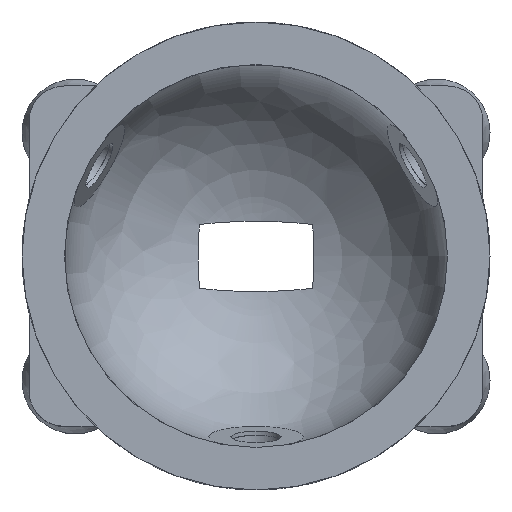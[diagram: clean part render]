
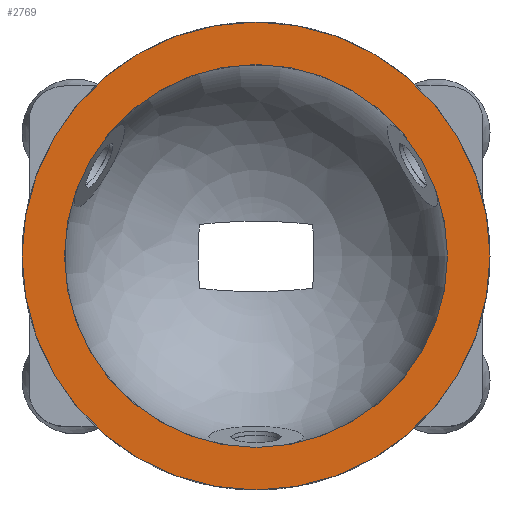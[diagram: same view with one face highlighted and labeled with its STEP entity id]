
A CAD part, top view. The second image highlights one B-rep face of the part: STEP entity #2769.
In plain terms, the highlighted planar face has unit normal (0, 0, 1).
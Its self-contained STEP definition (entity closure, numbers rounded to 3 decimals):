
#45 = CYLINDRICAL_SURFACE('',#46,13.5);
#46 = AXIS2_PLACEMENT_3D('',#47,#48,#49);
#47 = CARTESIAN_POINT('',(0.,0.,-4.));
#48 = DIRECTION('',(0.,0.,1.));
#49 = DIRECTION('',(1.,0.,-0.));
#540 = VERTEX_POINT('',#541);
#541 = CARTESIAN_POINT('',(13.5,0.,0.));
#562 = EDGE_CURVE('',#540,#540,#563,.T.);
#563 = SURFACE_CURVE('',#564,(#569,#576),.PCURVE_S1.);
#564 = CIRCLE('',#565,13.5);
#565 = AXIS2_PLACEMENT_3D('',#566,#567,#568);
#566 = CARTESIAN_POINT('',(0.,0.,0.));
#567 = DIRECTION('',(0.,0.,1.));
#568 = DIRECTION('',(1.,0.,-0.));
#569 = PCURVE('',#45,#570);
#570 = DEFINITIONAL_REPRESENTATION('',(#571),#575);
#571 = LINE('',#572,#573);
#572 = CARTESIAN_POINT('',(0.,4.));
#573 = VECTOR('',#574,1.);
#574 = DIRECTION('',(1.,0.));
#575 = ( GEOMETRIC_REPRESENTATION_CONTEXT(2) 
PARAMETRIC_REPRESENTATION_CONTEXT() REPRESENTATION_CONTEXT('2D SPACE',''
  ) );
#576 = PCURVE('',#577,#582);
#577 = PLANE('',#578);
#578 = AXIS2_PLACEMENT_3D('',#579,#580,#581);
#579 = CARTESIAN_POINT('',(0.,0.,0.));
#580 = DIRECTION('',(0.,0.,1.));
#581 = DIRECTION('',(1.,0.,-0.));
#582 = DEFINITIONAL_REPRESENTATION('',(#583),#587);
#583 = CIRCLE('',#584,13.5);
#584 = AXIS2_PLACEMENT_2D('',#585,#586);
#585 = CARTESIAN_POINT('',(0.,0.));
#586 = DIRECTION('',(1.,-0.));
#587 = ( GEOMETRIC_REPRESENTATION_CONTEXT(2) 
PARAMETRIC_REPRESENTATION_CONTEXT() REPRESENTATION_CONTEXT('2D SPACE',''
  ) );
#2769 = ADVANCED_FACE('',(#2770,#2773),#577,.T.);
#2770 = FACE_BOUND('',#2771,.F.);
#2771 = EDGE_LOOP('',(#2772));
#2772 = ORIENTED_EDGE('',*,*,#562,.T.);
#2773 = FACE_BOUND('',#2774,.F.);
#2774 = EDGE_LOOP('',(#2775));
#2775 = ORIENTED_EDGE('',*,*,#2776,.F.);
#2776 = EDGE_CURVE('',#2777,#2777,#2779,.T.);
#2777 = VERTEX_POINT('',#2778);
#2778 = CARTESIAN_POINT('',(16.5,0.,0.));
#2779 = SURFACE_CURVE('',#2780,(#2785,#2792),.PCURVE_S1.);
#2780 = CIRCLE('',#2781,16.5);
#2781 = AXIS2_PLACEMENT_3D('',#2782,#2783,#2784);
#2782 = CARTESIAN_POINT('',(0.,0.,0.));
#2783 = DIRECTION('',(0.,0.,1.));
#2784 = DIRECTION('',(1.,0.,-0.));
#2785 = PCURVE('',#577,#2786);
#2786 = DEFINITIONAL_REPRESENTATION('',(#2787),#2791);
#2787 = CIRCLE('',#2788,16.5);
#2788 = AXIS2_PLACEMENT_2D('',#2789,#2790);
#2789 = CARTESIAN_POINT('',(0.,0.));
#2790 = DIRECTION('',(1.,-0.));
#2791 = ( GEOMETRIC_REPRESENTATION_CONTEXT(2) 
PARAMETRIC_REPRESENTATION_CONTEXT() REPRESENTATION_CONTEXT('2D SPACE',''
  ) );
#2792 = PCURVE('',#2793,#2798);
#2793 = CYLINDRICAL_SURFACE('',#2794,16.5);
#2794 = AXIS2_PLACEMENT_3D('',#2795,#2796,#2797);
#2795 = CARTESIAN_POINT('',(0.,0.,0.));
#2796 = DIRECTION('',(-0.,-0.,-1.));
#2797 = DIRECTION('',(1.,0.,0.));
#2798 = DEFINITIONAL_REPRESENTATION('',(#2799),#2803);
#2799 = LINE('',#2800,#2801);
#2800 = CARTESIAN_POINT('',(-0.,0.));
#2801 = VECTOR('',#2802,1.);
#2802 = DIRECTION('',(-1.,0.));
#2803 = ( GEOMETRIC_REPRESENTATION_CONTEXT(2) 
PARAMETRIC_REPRESENTATION_CONTEXT() REPRESENTATION_CONTEXT('2D SPACE',''
  ) );
